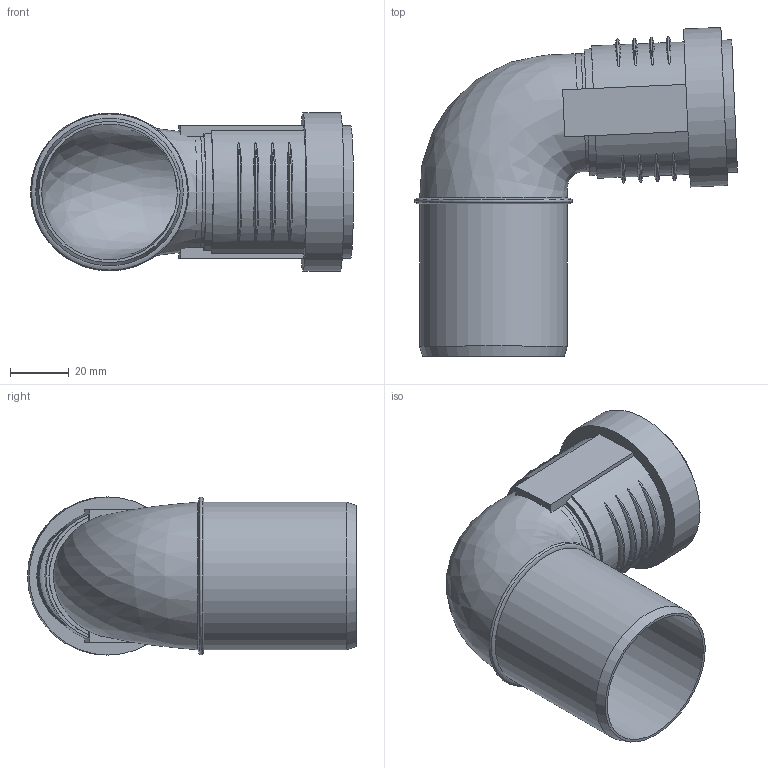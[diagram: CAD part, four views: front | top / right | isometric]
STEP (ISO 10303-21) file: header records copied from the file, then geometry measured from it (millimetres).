
FILE_DESCRIPTION(/* description */ (''),/* implementation_level */ '2;1');
FILE_NAME(/* name */ 'Z:\Geberit\Export\NewStep\390225.stp',/* time_stamp */ '2014-04-02T08:10:15+02:00',/* author */ ('ML'),/* organization */ (''),/* preprocessor_version */ 'ST-DEVELOPER v15.2',/* originating_system */ 'Autodesk Inventor 2014',/* authorisation */ '');
FILE_SCHEMA (('AUTOMOTIVE_DESIGN { 1 0 10303 214 3 1 1 }'));
Length unit declared in the file: millimetre
Products named in the file (3): 861310; 861400; 390225
Bounding box: 109.7 x 111.74 x 53.7 mm (x, y, z)
Volume: 50265.8 mm3; surface area: 50981.8 mm2
Topology: 2 solids, 2 shells, 68 faces, 163 edges, 112 vertices
Faces by surface type: torus 27, plane 19, cylinder 18, bspline 2, cone 2
Full cylindrical faces by diameter (mm): 36.15 x2, 40.15 x2, 41 x2, 45 x1, 46.15 x1, 49.7 x1, 50.15 x2, 53.7 x1
Entity records: 3147 total; most frequent: CARTESIAN_POINT 1534, DIRECTION 296, ORIENTED_EDGE 290, EDGE_CURVE 145, AXIS2_PLACEMENT_3D 130, VERTEX_POINT 111, EDGE_LOOP 102, STYLED_ITEM 70
